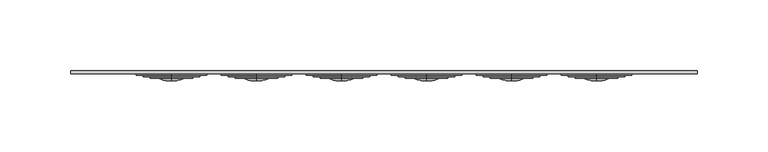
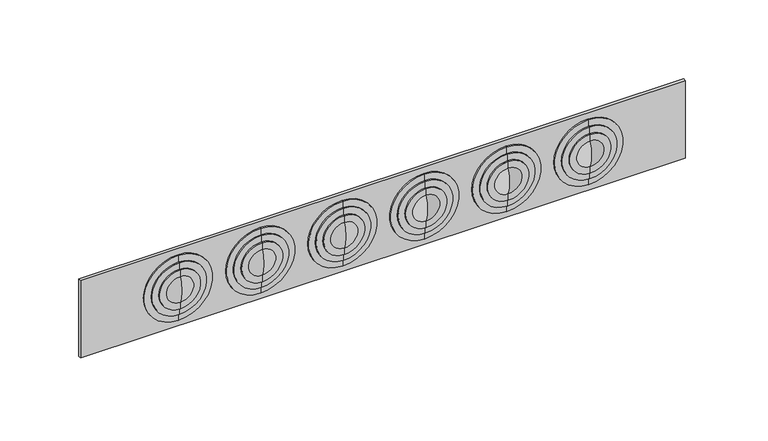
"""IFC4 building model written with IfcOpenShell, lengths in millimetres: proxy geometry, Комплект пластины для ввода труб в металлическую опалубку : Комплект пластины для ввода труб в металлическую опалубку."""

from ifc_helpers import new_model, si_unit, point, frame, origin, place, context, project, spatial, polyline, circle_curve, ellipse_curve, trimmed, outline, extrude, source, transform, mapped, element, save
from ifc_brep_helpers import plane_surface, cylinder_surface, revolved_surface, advanced_brep


def electrical_fixtures_34fc644d(model_context):
    return source(origin(), model_context, "Body", "SolidModel", [
        advanced_brep(
        [(-150.0, -2.0, 0.0), (-150.0, -2.0, -25.0), (-150.0, -2.0, 25.0), (-150.0, -5.067427, 9.8713258), (-150.0, -5.067427, -9.8713258), (-150.0, -7.0, 0.0), (-150.0, -5.067427, 15.0), (-150.0, -5.067427, -15.0), (-150.0, -4.054193, 15.0), (-150.0, -4.054193, -15.0), (-150.0, -4.054193, 20.0), (-150.0, -4.054193, -20.0), (-150.0, -3.040959, 20.0), (-150.0, -3.040959, -20.0), (-150.0, -3.040959, 25.0), (-150.0, -3.040959, -25.0)],
        [
            (0, 1),
            (1, 2, circle_curve(frame((-150.0, -2.0, 0.0), z_axis=(0.0, 1.0, 0.0), x_axis=(0.0, 0.0, -1.0)), 25.0)),
            (2, 0),
            (2, 1, circle_curve(frame((-150.0, -2.0, 0.0), z_axis=(0.0, 1.0, 0.0), x_axis=(0.0, 0.0, -1.0)), 25.0)),
            (3, 4, circle_curve(frame((-150.0, -5.067427, 0.0), z_axis=(0.0, -1.0, 0.0), x_axis=(0.0, 0.0, -1.0)), 9.8713258)),
            (4, 5, ellipse_curve(frame((-150.0, -2.0, 0.0), z_axis=(-1.0, 0.0, 0.0), x_axis=(0.0, 0.0, 1.0)), 12.5, 5.0)),
            (5, 3, ellipse_curve(frame((-150.0, -2.0, 0.0), z_axis=(-1.0, 0.0, 0.0), x_axis=(0.0, 0.0, -1.0)), 12.5, 5.0)),
            (4, 3, circle_curve(frame((-150.0, -5.067427, 0.0), z_axis=(0.0, -1.0, 0.0), x_axis=(0.0, 0.0, -1.0)), 9.8713258)),
            (6, 7, circle_curve(frame((-150.0, -5.067427, 0.0), z_axis=(0.0, -1.0, 0.0), x_axis=(0.0, 0.0, -1.0)), 15.0)),
            (7, 4),
            (3, 6),
            (7, 6, circle_curve(frame((-150.0, -5.067427, 0.0), z_axis=(0.0, -1.0, 0.0), x_axis=(0.0, 0.0, -1.0)), 15.0)),
            (8, 9, circle_curve(frame((-150.0, -4.054193, 0.0), z_axis=(0.0, -1.0, 0.0), x_axis=(0.0, 0.0, -1.0)), 15.0)),
            (9, 7),
            (6, 8),
            (9, 8, circle_curve(frame((-150.0, -4.054193, 0.0), z_axis=(0.0, -1.0, 0.0), x_axis=(0.0, 0.0, -1.0)), 15.0)),
            (10, 11, circle_curve(frame((-150.0, -4.054193, 0.0), z_axis=(0.0, -1.0, 0.0), x_axis=(0.0, 0.0, -1.0)), 20.0)),
            (11, 9),
            (8, 10),
            (11, 10, circle_curve(frame((-150.0, -4.054193, 0.0), z_axis=(0.0, -1.0, 0.0), x_axis=(0.0, 0.0, -1.0)), 20.0)),
            (12, 13, circle_curve(frame((-150.0, -3.040959, 0.0), z_axis=(0.0, -1.0, 0.0), x_axis=(0.0, 0.0, -1.0)), 20.0)),
            (13, 11),
            (10, 12),
            (13, 12, circle_curve(frame((-150.0, -3.040959, 0.0), z_axis=(0.0, -1.0, 0.0), x_axis=(0.0, 0.0, -1.0)), 20.0)),
            (14, 15, circle_curve(frame((-150.0, -3.040959, 0.0), z_axis=(0.0, -1.0, 0.0), x_axis=(0.0, 0.0, -1.0)), 25.0)),
            (15, 13),
            (12, 14),
            (15, 14, circle_curve(frame((-150.0, -3.040959, 0.0), z_axis=(0.0, -1.0, 0.0), x_axis=(0.0, 0.0, -1.0)), 25.0)),
            (1, 15),
            (14, 2),
        ],
        [
            plane_surface(frame((-150.0, -2.0, 0.0), z_axis=(0.0, 1.0, 0.0), x_axis=(0.0, 0.0, -1.0))),
            revolved_surface(trimmed(ellipse_curve(frame((-150.0, -2.0, 0.0), z_axis=(1.0, 0.0, 0.0), x_axis=(0.0, 1.0, 0.0)), 5.0, 12.5), [point((-150.0, -7.0, 0.0))], [point((-150.0, -5.067427, -9.8713258))], True, "CARTESIAN"), (-150.0, 4.394365, 0.0), (0.0, 1.0, 0.0)),
            plane_surface(frame((-150.0, -5.067427, 0.0), z_axis=(0.0, -1.0, 0.0), x_axis=(0.0, 0.0, -1.0))),
            cylinder_surface(frame((-150.0, 4.394365, 0.0), z_axis=(0.0, 1.0, 0.0), x_axis=(0.0, 0.0, -1.0)), 15.0),
            plane_surface(frame((-150.0, -4.054193, 0.0), z_axis=(0.0, -1.0, 0.0), x_axis=(0.0, 0.0, -1.0))),
            cylinder_surface(frame((-150.0, 4.394365, 0.0), z_axis=(0.0, 1.0, 0.0), x_axis=(0.0, 0.0, -1.0)), 20.0),
            plane_surface(frame((-150.0, -3.040959, 0.0), z_axis=(0.0, -1.0, 0.0), x_axis=(0.0, 0.0, -1.0))),
            cylinder_surface(frame((-150.0, 4.394365, 0.0), z_axis=(0.0, 1.0, 0.0), x_axis=(0.0, 0.0, -1.0)), 25.0),
        ],
        [
            (0, [[1, 2, 3]]),
            (0, [[-3, 4, -1]]),
            (1, [[5, 6, 7]]),
            (1, [[8, -7, -6]]),
            (2, [[9, 10, -5, 11]]),
            (2, [[12, -11, -8, -10]]),
            (3, [[13, 14, -9, 15]]),
            (3, [[16, -15, -12, -14]]),
            (4, [[17, 18, -13, 19]]),
            (4, [[20, -19, -16, -18]]),
            (5, [[21, 22, -17, 23]]),
            (5, [[24, -23, -20, -22]]),
            (6, [[25, 26, -21, 27]]),
            (6, [[28, -27, -24, -26]]),
            (7, [[-2, 29, -25, 30]]),
            (7, [[-4, -30, -28, -29]]),
        ],
    ),
        advanced_brep(
        [(-90.0, -2.0, 0.0), (-90.0, -2.0, -25.0), (-90.0, -2.0, 25.0), (-90.0, -5.067427, 9.8713258), (-90.0, -5.067427, -9.8713258), (-90.0, -7.0, 0.0), (-90.0, -5.067427, 15.0), (-90.0, -5.067427, -15.0), (-90.0, -4.054193, 15.0), (-90.0, -4.054193, -15.0), (-90.0, -4.054193, 20.0), (-90.0, -4.054193, -20.0), (-90.0, -3.040959, 20.0), (-90.0, -3.040959, -20.0), (-90.0, -3.040959, 25.0), (-90.0, -3.040959, -25.0)],
        [
            (0, 1),
            (1, 2, circle_curve(frame((-90.0, -2.0, 0.0), z_axis=(0.0, 1.0, 0.0), x_axis=(0.0, 0.0, -1.0)), 25.0)),
            (2, 0),
            (2, 1, circle_curve(frame((-90.0, -2.0, 0.0), z_axis=(0.0, 1.0, 0.0), x_axis=(0.0, 0.0, -1.0)), 25.0)),
            (3, 4, circle_curve(frame((-90.0, -5.067427, 0.0), z_axis=(0.0, -1.0, 0.0), x_axis=(0.0, 0.0, -1.0)), 9.8713258)),
            (4, 5, ellipse_curve(frame((-90.0, -2.0, 0.0), z_axis=(-1.0, 0.0, 0.0), x_axis=(0.0, 0.0, 1.0)), 12.5, 5.0)),
            (5, 3, ellipse_curve(frame((-90.0, -2.0, 0.0), z_axis=(-1.0, 0.0, 0.0), x_axis=(0.0, 0.0, -1.0)), 12.5, 5.0)),
            (4, 3, circle_curve(frame((-90.0, -5.067427, 0.0), z_axis=(0.0, -1.0, 0.0), x_axis=(0.0, 0.0, -1.0)), 9.8713258)),
            (6, 7, circle_curve(frame((-90.0, -5.067427, 0.0), z_axis=(0.0, -1.0, 0.0), x_axis=(0.0, 0.0, -1.0)), 15.0)),
            (7, 4),
            (3, 6),
            (7, 6, circle_curve(frame((-90.0, -5.067427, 0.0), z_axis=(0.0, -1.0, 0.0), x_axis=(0.0, 0.0, -1.0)), 15.0)),
            (8, 9, circle_curve(frame((-90.0, -4.054193, 0.0), z_axis=(0.0, -1.0, 0.0), x_axis=(0.0, 0.0, -1.0)), 15.0)),
            (9, 7),
            (6, 8),
            (9, 8, circle_curve(frame((-90.0, -4.054193, 0.0), z_axis=(0.0, -1.0, 0.0), x_axis=(0.0, 0.0, -1.0)), 15.0)),
            (10, 11, circle_curve(frame((-90.0, -4.054193, 0.0), z_axis=(0.0, -1.0, 0.0), x_axis=(0.0, 0.0, -1.0)), 20.0)),
            (11, 9),
            (8, 10),
            (11, 10, circle_curve(frame((-90.0, -4.054193, 0.0), z_axis=(0.0, -1.0, 0.0), x_axis=(0.0, 0.0, -1.0)), 20.0)),
            (12, 13, circle_curve(frame((-90.0, -3.040959, 0.0), z_axis=(0.0, -1.0, 0.0), x_axis=(0.0, 0.0, -1.0)), 20.0)),
            (13, 11),
            (10, 12),
            (13, 12, circle_curve(frame((-90.0, -3.040959, 0.0), z_axis=(0.0, -1.0, 0.0), x_axis=(0.0, 0.0, -1.0)), 20.0)),
            (14, 15, circle_curve(frame((-90.0, -3.040959, 0.0), z_axis=(0.0, -1.0, 0.0), x_axis=(0.0, 0.0, -1.0)), 25.0)),
            (15, 13),
            (12, 14),
            (15, 14, circle_curve(frame((-90.0, -3.040959, 0.0), z_axis=(0.0, -1.0, 0.0), x_axis=(0.0, 0.0, -1.0)), 25.0)),
            (1, 15),
            (14, 2),
        ],
        [
            plane_surface(frame((-90.0, -2.0, 0.0), z_axis=(0.0, 1.0, 0.0), x_axis=(0.0, 0.0, -1.0))),
            revolved_surface(trimmed(ellipse_curve(frame((-90.0, -2.0, 0.0), z_axis=(1.0, 0.0, 0.0), x_axis=(0.0, 1.0, 0.0)), 5.0, 12.5), [point((-90.0, -7.0, 0.0))], [point((-90.0, -5.067427, -9.8713258))], True, "CARTESIAN"), (-90.0, 4.394365, 0.0), (0.0, 1.0, 0.0)),
            plane_surface(frame((-90.0, -5.067427, 0.0), z_axis=(0.0, -1.0, 0.0), x_axis=(0.0, 0.0, -1.0))),
            cylinder_surface(frame((-90.0, 4.394365, 0.0), z_axis=(0.0, 1.0, 0.0), x_axis=(0.0, 0.0, -1.0)), 15.0),
            plane_surface(frame((-90.0, -4.054193, 0.0), z_axis=(0.0, -1.0, 0.0), x_axis=(0.0, 0.0, -1.0))),
            cylinder_surface(frame((-90.0, 4.394365, 0.0), z_axis=(0.0, 1.0, 0.0), x_axis=(0.0, 0.0, -1.0)), 20.0),
            plane_surface(frame((-90.0, -3.040959, 0.0), z_axis=(0.0, -1.0, 0.0), x_axis=(0.0, 0.0, -1.0))),
            cylinder_surface(frame((-90.0, 4.394365, 0.0), z_axis=(0.0, 1.0, 0.0), x_axis=(0.0, 0.0, -1.0)), 25.0),
        ],
        [
            (0, [[1, 2, 3]]),
            (0, [[-3, 4, -1]]),
            (1, [[5, 6, 7]]),
            (1, [[8, -7, -6]]),
            (2, [[9, 10, -5, 11]]),
            (2, [[12, -11, -8, -10]]),
            (3, [[13, 14, -9, 15]]),
            (3, [[16, -15, -12, -14]]),
            (4, [[17, 18, -13, 19]]),
            (4, [[20, -19, -16, -18]]),
            (5, [[21, 22, -17, 23]]),
            (5, [[24, -23, -20, -22]]),
            (6, [[25, 26, -21, 27]]),
            (6, [[28, -27, -24, -26]]),
            (7, [[-2, 29, -25, 30]]),
            (7, [[-4, -30, -28, -29]]),
        ],
    ),
        advanced_brep(
        [(150.0, -2.0, 25.0), (150.0, -2.0, -25.0), (150.0, -2.0, 0.0), (150.0, -7.0, 0.0), (150.0, -5.067427, -9.8713258), (150.0, -5.067427, 9.8713258), (150.0, -5.067427, -15.0), (150.0, -5.067427, 15.0), (150.0, -4.054193, -15.0), (150.0, -4.054193, 15.0), (150.0, -4.054193, -20.0), (150.0, -4.054193, 20.0), (150.0, -3.040959, -20.0), (150.0, -3.040959, 20.0), (150.0, -3.040959, -25.0), (150.0, -3.040959, 25.0)],
        [
            (0, 1, circle_curve(frame((150.0, -2.0, 0.0), z_axis=(0.0, 1.0, 0.0), x_axis=(0.0, 0.0, -1.0)), 25.0)),
            (1, 2),
            (2, 0),
            (1, 0, circle_curve(frame((150.0, -2.0, 0.0), z_axis=(0.0, 1.0, 0.0), x_axis=(0.0, 0.0, -1.0)), 25.0)),
            (3, 4, ellipse_curve(frame((150.0, -2.0, 0.0), z_axis=(1.0, 0.0, 0.0), x_axis=(0.0, 0.0, -1.0)), 12.5, 5.0)),
            (4, 5, circle_curve(frame((150.0, -5.067427, 0.0), z_axis=(0.0, -1.0, 0.0), x_axis=(0.0, 0.0, -1.0)), 9.8713258)),
            (5, 3, ellipse_curve(frame((150.0, -2.0, 0.0), z_axis=(1.0, 0.0, 0.0), x_axis=(0.0, 0.0, 1.0)), 12.5, 5.0)),
            (5, 4, circle_curve(frame((150.0, -5.067427, 0.0), z_axis=(0.0, -1.0, 0.0), x_axis=(0.0, 0.0, -1.0)), 9.8713258)),
            (4, 6),
            (6, 7, circle_curve(frame((150.0, -5.067427, 0.0), z_axis=(0.0, -1.0, 0.0), x_axis=(0.0, 0.0, -1.0)), 15.0)),
            (7, 5),
            (7, 6, circle_curve(frame((150.0, -5.067427, 0.0), z_axis=(0.0, -1.0, 0.0), x_axis=(0.0, 0.0, -1.0)), 15.0)),
            (6, 8),
            (8, 9, circle_curve(frame((150.0, -4.054193, 0.0), z_axis=(0.0, -1.0, 0.0), x_axis=(0.0, 0.0, -1.0)), 15.0)),
            (9, 7),
            (9, 8, circle_curve(frame((150.0, -4.054193, 0.0), z_axis=(0.0, -1.0, 0.0), x_axis=(0.0, 0.0, -1.0)), 15.0)),
            (8, 10),
            (10, 11, circle_curve(frame((150.0, -4.054193, 0.0), z_axis=(0.0, -1.0, 0.0), x_axis=(0.0, 0.0, -1.0)), 20.0)),
            (11, 9),
            (11, 10, circle_curve(frame((150.0, -4.054193, 0.0), z_axis=(0.0, -1.0, 0.0), x_axis=(0.0, 0.0, -1.0)), 20.0)),
            (10, 12),
            (12, 13, circle_curve(frame((150.0, -3.040959, 0.0), z_axis=(0.0, -1.0, 0.0), x_axis=(0.0, 0.0, -1.0)), 20.0)),
            (13, 11),
            (13, 12, circle_curve(frame((150.0, -3.040959, 0.0), z_axis=(0.0, -1.0, 0.0), x_axis=(0.0, 0.0, -1.0)), 20.0)),
            (12, 14),
            (14, 15, circle_curve(frame((150.0, -3.040959, 0.0), z_axis=(0.0, -1.0, 0.0), x_axis=(0.0, 0.0, -1.0)), 25.0)),
            (15, 13),
            (15, 14, circle_curve(frame((150.0, -3.040959, 0.0), z_axis=(0.0, -1.0, 0.0), x_axis=(0.0, 0.0, -1.0)), 25.0)),
            (14, 1),
            (0, 15),
        ],
        [
            plane_surface(frame((150.0, -2.0, 0.0), z_axis=(0.0, 1.0, 0.0), x_axis=(0.0, 0.0, -1.0))),
            revolved_surface(trimmed(ellipse_curve(frame((150.0, -2.0, 0.0), z_axis=(-1.0, 0.0, 0.0), x_axis=(0.0, 1.0, 0.0)), 5.0, 12.5), [point((150.0, -5.067427, -9.8713258))], [point((150.0, -7.0, 0.0))], True, "CARTESIAN"), (150.0, 4.394365, 0.0), (0.0, -1.0, 0.0)),
            plane_surface(frame((150.0, -5.067427, 0.0), z_axis=(0.0, -1.0, 0.0), x_axis=(0.0, 0.0, -1.0))),
            cylinder_surface(frame((150.0, 4.394365, 0.0), z_axis=(0.0, -1.0, 0.0), x_axis=(0.0, 0.0, -1.0)), 15.0),
            plane_surface(frame((150.0, -4.054193, 0.0), z_axis=(0.0, -1.0, 0.0), x_axis=(0.0, 0.0, -1.0))),
            cylinder_surface(frame((150.0, 4.394365, 0.0), z_axis=(0.0, -1.0, 0.0), x_axis=(0.0, 0.0, -1.0)), 20.0),
            plane_surface(frame((150.0, -3.040959, 0.0), z_axis=(0.0, -1.0, 0.0), x_axis=(0.0, 0.0, -1.0))),
            cylinder_surface(frame((150.0, 4.394365, 0.0), z_axis=(0.0, -1.0, 0.0), x_axis=(0.0, 0.0, -1.0)), 25.0),
        ],
        [
            (0, [[1, 2, 3]]),
            (0, [[4, -3, -2]]),
            (1, [[5, 6, 7]]),
            (1, [[-7, 8, -5]]),
            (2, [[-6, 9, 10, 11]]),
            (2, [[-8, -11, 12, -9]]),
            (3, [[-10, 13, 14, 15]]),
            (3, [[-12, -15, 16, -13]]),
            (4, [[-14, 17, 18, 19]]),
            (4, [[-16, -19, 20, -17]]),
            (5, [[-18, 21, 22, 23]]),
            (5, [[-20, -23, 24, -21]]),
            (6, [[-22, 25, 26, 27]]),
            (6, [[-24, -27, 28, -25]]),
            (7, [[-26, 29, -1, 30]]),
            (7, [[-28, -30, -4, -29]]),
        ],
    ),
        advanced_brep(
        [(90.0, -2.0, 25.0), (90.0, -2.0, -25.0), (90.0, -2.0, 0.0), (90.0, -7.0, 0.0), (90.0, -5.067427, -9.8713258), (90.0, -5.067427, 9.8713258), (90.0, -5.067427, -15.0), (90.0, -5.067427, 15.0), (90.0, -4.054193, -15.0), (90.0, -4.054193, 15.0), (90.0, -4.054193, -20.0), (90.0, -4.054193, 20.0), (90.0, -3.040959, -20.0), (90.0, -3.040959, 20.0), (90.0, -3.040959, -25.0), (90.0, -3.040959, 25.0)],
        [
            (0, 1, circle_curve(frame((90.0, -2.0, 0.0), z_axis=(0.0, 1.0, 0.0), x_axis=(0.0, 0.0, -1.0)), 25.0)),
            (1, 2),
            (2, 0),
            (1, 0, circle_curve(frame((90.0, -2.0, 0.0), z_axis=(0.0, 1.0, 0.0), x_axis=(0.0, 0.0, -1.0)), 25.0)),
            (3, 4, ellipse_curve(frame((90.0, -2.0, 0.0), z_axis=(1.0, 0.0, 0.0), x_axis=(0.0, 0.0, -1.0)), 12.5, 5.0)),
            (4, 5, circle_curve(frame((90.0, -5.067427, 0.0), z_axis=(0.0, -1.0, 0.0), x_axis=(0.0, 0.0, -1.0)), 9.8713258)),
            (5, 3, ellipse_curve(frame((90.0, -2.0, 0.0), z_axis=(1.0, 0.0, 0.0), x_axis=(0.0, 0.0, 1.0)), 12.5, 5.0)),
            (5, 4, circle_curve(frame((90.0, -5.067427, 0.0), z_axis=(0.0, -1.0, 0.0), x_axis=(0.0, 0.0, -1.0)), 9.8713258)),
            (4, 6),
            (6, 7, circle_curve(frame((90.0, -5.067427, 0.0), z_axis=(0.0, -1.0, 0.0), x_axis=(0.0, 0.0, -1.0)), 15.0)),
            (7, 5),
            (7, 6, circle_curve(frame((90.0, -5.067427, 0.0), z_axis=(0.0, -1.0, 0.0), x_axis=(0.0, 0.0, -1.0)), 15.0)),
            (6, 8),
            (8, 9, circle_curve(frame((90.0, -4.054193, 0.0), z_axis=(0.0, -1.0, 0.0), x_axis=(0.0, 0.0, -1.0)), 15.0)),
            (9, 7),
            (9, 8, circle_curve(frame((90.0, -4.054193, 0.0), z_axis=(0.0, -1.0, 0.0), x_axis=(0.0, 0.0, -1.0)), 15.0)),
            (8, 10),
            (10, 11, circle_curve(frame((90.0, -4.054193, 0.0), z_axis=(0.0, -1.0, 0.0), x_axis=(0.0, 0.0, -1.0)), 20.0)),
            (11, 9),
            (11, 10, circle_curve(frame((90.0, -4.054193, 0.0), z_axis=(0.0, -1.0, 0.0), x_axis=(0.0, 0.0, -1.0)), 20.0)),
            (10, 12),
            (12, 13, circle_curve(frame((90.0, -3.040959, 0.0), z_axis=(0.0, -1.0, 0.0), x_axis=(0.0, 0.0, -1.0)), 20.0)),
            (13, 11),
            (13, 12, circle_curve(frame((90.0, -3.040959, 0.0), z_axis=(0.0, -1.0, 0.0), x_axis=(0.0, 0.0, -1.0)), 20.0)),
            (12, 14),
            (14, 15, circle_curve(frame((90.0, -3.040959, 0.0), z_axis=(0.0, -1.0, 0.0), x_axis=(0.0, 0.0, -1.0)), 25.0)),
            (15, 13),
            (15, 14, circle_curve(frame((90.0, -3.040959, 0.0), z_axis=(0.0, -1.0, 0.0), x_axis=(0.0, 0.0, -1.0)), 25.0)),
            (14, 1),
            (0, 15),
        ],
        [
            plane_surface(frame((90.0, -2.0, 0.0), z_axis=(0.0, 1.0, 0.0), x_axis=(0.0, 0.0, -1.0))),
            revolved_surface(trimmed(ellipse_curve(frame((90.0, -2.0, 0.0), z_axis=(-1.0, 0.0, 0.0), x_axis=(0.0, 1.0, 0.0)), 5.0, 12.5), [point((90.0, -5.067427, -9.8713258))], [point((90.0, -7.0, 0.0))], True, "CARTESIAN"), (90.0, 4.394365, 0.0), (0.0, -1.0, 0.0)),
            plane_surface(frame((90.0, -5.067427, 0.0), z_axis=(0.0, -1.0, 0.0), x_axis=(0.0, 0.0, -1.0))),
            cylinder_surface(frame((90.0, 4.394365, 0.0), z_axis=(0.0, -1.0, 0.0), x_axis=(0.0, 0.0, -1.0)), 15.0),
            plane_surface(frame((90.0, -4.054193, 0.0), z_axis=(0.0, -1.0, 0.0), x_axis=(0.0, 0.0, -1.0))),
            cylinder_surface(frame((90.0, 4.394365, 0.0), z_axis=(0.0, -1.0, 0.0), x_axis=(0.0, 0.0, -1.0)), 20.0),
            plane_surface(frame((90.0, -3.040959, 0.0), z_axis=(0.0, -1.0, 0.0), x_axis=(0.0, 0.0, -1.0))),
            cylinder_surface(frame((90.0, 4.394365, 0.0), z_axis=(0.0, -1.0, 0.0), x_axis=(0.0, 0.0, -1.0)), 25.0),
        ],
        [
            (0, [[1, 2, 3]]),
            (0, [[4, -3, -2]]),
            (1, [[5, 6, 7]]),
            (1, [[-7, 8, -5]]),
            (2, [[-6, 9, 10, 11]]),
            (2, [[-8, -11, 12, -9]]),
            (3, [[-10, 13, 14, 15]]),
            (3, [[-12, -15, 16, -13]]),
            (4, [[-14, 17, 18, 19]]),
            (4, [[-16, -19, 20, -17]]),
            (5, [[-18, 21, 22, 23]]),
            (5, [[-20, -23, 24, -21]]),
            (6, [[-22, 25, 26, 27]]),
            (6, [[-24, -27, 28, -25]]),
            (7, [[-26, 29, -1, 30]]),
            (7, [[-28, -30, -4, -29]]),
        ],
    ),
        advanced_brep(
        [(30.0, -2.0, 25.0), (30.0, -2.0, -25.0), (30.0, -2.0, 0.0), (30.0, -7.0, 0.0), (30.0, -5.067427, -9.8713258), (30.0, -5.067427, 9.8713258), (30.0, -5.067427, -15.0), (30.0, -5.067427, 15.0), (30.0, -4.054193, -15.0), (30.0, -4.054193, 15.0), (30.0, -4.054193, -20.0), (30.0, -4.054193, 20.0), (30.0, -3.040959, -20.0), (30.0, -3.040959, 20.0), (30.0, -3.040959, -25.0), (30.0, -3.040959, 25.0)],
        [
            (0, 1, circle_curve(frame((30.0, -2.0, 0.0), z_axis=(0.0, 1.0, 0.0), x_axis=(0.0, 0.0, -1.0)), 25.0)),
            (1, 2),
            (2, 0),
            (1, 0, circle_curve(frame((30.0, -2.0, 0.0), z_axis=(0.0, 1.0, 0.0), x_axis=(0.0, 0.0, -1.0)), 25.0)),
            (3, 4, ellipse_curve(frame((30.0, -2.0, 0.0), z_axis=(1.0, 0.0, 0.0), x_axis=(0.0, 0.0, -1.0)), 12.5, 5.0)),
            (4, 5, circle_curve(frame((30.0, -5.067427, 0.0), z_axis=(0.0, -1.0, 0.0), x_axis=(0.0, 0.0, -1.0)), 9.8713258)),
            (5, 3, ellipse_curve(frame((30.0, -2.0, 0.0), z_axis=(1.0, 0.0, 0.0), x_axis=(0.0, 0.0, 1.0)), 12.5, 5.0)),
            (5, 4, circle_curve(frame((30.0, -5.067427, 0.0), z_axis=(0.0, -1.0, 0.0), x_axis=(0.0, 0.0, -1.0)), 9.8713258)),
            (4, 6),
            (6, 7, circle_curve(frame((30.0, -5.067427, 0.0), z_axis=(0.0, -1.0, 0.0), x_axis=(0.0, 0.0, -1.0)), 15.0)),
            (7, 5),
            (7, 6, circle_curve(frame((30.0, -5.067427, 0.0), z_axis=(0.0, -1.0, 0.0), x_axis=(0.0, 0.0, -1.0)), 15.0)),
            (6, 8),
            (8, 9, circle_curve(frame((30.0, -4.054193, 0.0), z_axis=(0.0, -1.0, 0.0), x_axis=(0.0, 0.0, -1.0)), 15.0)),
            (9, 7),
            (9, 8, circle_curve(frame((30.0, -4.054193, 0.0), z_axis=(0.0, -1.0, 0.0), x_axis=(0.0, 0.0, -1.0)), 15.0)),
            (8, 10),
            (10, 11, circle_curve(frame((30.0, -4.054193, 0.0), z_axis=(0.0, -1.0, 0.0), x_axis=(0.0, 0.0, -1.0)), 20.0)),
            (11, 9),
            (11, 10, circle_curve(frame((30.0, -4.054193, 0.0), z_axis=(0.0, -1.0, 0.0), x_axis=(0.0, 0.0, -1.0)), 20.0)),
            (10, 12),
            (12, 13, circle_curve(frame((30.0, -3.040959, 0.0), z_axis=(0.0, -1.0, 0.0), x_axis=(0.0, 0.0, -1.0)), 20.0)),
            (13, 11),
            (13, 12, circle_curve(frame((30.0, -3.040959, 0.0), z_axis=(0.0, -1.0, 0.0), x_axis=(0.0, 0.0, -1.0)), 20.0)),
            (12, 14),
            (14, 15, circle_curve(frame((30.0, -3.040959, 0.0), z_axis=(0.0, -1.0, 0.0), x_axis=(0.0, 0.0, -1.0)), 25.0)),
            (15, 13),
            (15, 14, circle_curve(frame((30.0, -3.040959, 0.0), z_axis=(0.0, -1.0, 0.0), x_axis=(0.0, 0.0, -1.0)), 25.0)),
            (14, 1),
            (0, 15),
        ],
        [
            plane_surface(frame((30.0, -2.0, 0.0), z_axis=(0.0, 1.0, 0.0), x_axis=(0.0, 0.0, -1.0))),
            revolved_surface(trimmed(ellipse_curve(frame((30.0, -2.0, 0.0), z_axis=(-1.0, 0.0, 0.0), x_axis=(0.0, 1.0, 0.0)), 5.0, 12.5), [point((30.0, -5.067427, -9.8713258))], [point((30.0, -7.0, 0.0))], True, "CARTESIAN"), (30.0, 4.394365, 0.0), (0.0, -1.0, 0.0)),
            plane_surface(frame((30.0, -5.067427, 0.0), z_axis=(0.0, -1.0, 0.0), x_axis=(0.0, 0.0, -1.0))),
            cylinder_surface(frame((30.0, 4.394365, 0.0), z_axis=(0.0, -1.0, 0.0), x_axis=(0.0, 0.0, -1.0)), 15.0),
            plane_surface(frame((30.0, -4.054193, 0.0), z_axis=(0.0, -1.0, 0.0), x_axis=(0.0, 0.0, -1.0))),
            cylinder_surface(frame((30.0, 4.394365, 0.0), z_axis=(0.0, -1.0, 0.0), x_axis=(0.0, 0.0, -1.0)), 20.0),
            plane_surface(frame((30.0, -3.040959, 0.0), z_axis=(0.0, -1.0, 0.0), x_axis=(0.0, 0.0, -1.0))),
            cylinder_surface(frame((30.0, 4.394365, 0.0), z_axis=(0.0, -1.0, 0.0), x_axis=(0.0, 0.0, -1.0)), 25.0),
        ],
        [
            (0, [[1, 2, 3]]),
            (0, [[4, -3, -2]]),
            (1, [[5, 6, 7]]),
            (1, [[-7, 8, -5]]),
            (2, [[-6, 9, 10, 11]]),
            (2, [[-8, -11, 12, -9]]),
            (3, [[-10, 13, 14, 15]]),
            (3, [[-12, -15, 16, -13]]),
            (4, [[-14, 17, 18, 19]]),
            (4, [[-16, -19, 20, -17]]),
            (5, [[-18, 21, 22, 23]]),
            (5, [[-20, -23, 24, -21]]),
            (6, [[-22, 25, 26, 27]]),
            (6, [[-24, -27, 28, -25]]),
            (7, [[-26, 29, -1, 30]]),
            (7, [[-28, -30, -4, -29]]),
        ],
    ),
        advanced_brep(
        [(-30.0, -2.0, 0.0), (-30.0, -2.0, -25.0), (-30.0, -2.0, 25.0), (-30.0, -5.067427, 9.8713258), (-30.0, -5.067427, -9.8713258), (-30.0, -7.0, 0.0), (-30.0, -5.067427, 15.0), (-30.0, -5.067427, -15.0), (-30.0, -4.054193, 15.0), (-30.0, -4.054193, -15.0), (-30.0, -4.054193, 20.0), (-30.0, -4.054193, -20.0), (-30.0, -3.040959, 20.0), (-30.0, -3.040959, -20.0), (-30.0, -3.040959, 25.0), (-30.0, -3.040959, -25.0)],
        [
            (0, 1),
            (1, 2, circle_curve(frame((-30.0, -2.0, 0.0), z_axis=(0.0, 1.0, 0.0), x_axis=(0.0, 0.0, -1.0)), 25.0)),
            (2, 0),
            (2, 1, circle_curve(frame((-30.0, -2.0, 0.0), z_axis=(0.0, 1.0, 0.0), x_axis=(0.0, 0.0, -1.0)), 25.0)),
            (3, 4, circle_curve(frame((-30.0, -5.067427, 0.0), z_axis=(0.0, -1.0, 0.0), x_axis=(0.0, 0.0, -1.0)), 9.8713258)),
            (4, 5, ellipse_curve(frame((-30.0, -2.0, 0.0), z_axis=(-1.0, 0.0, 0.0), x_axis=(0.0, 0.0, 1.0)), 12.5, 5.0)),
            (5, 3, ellipse_curve(frame((-30.0, -2.0, 0.0), z_axis=(-1.0, 0.0, 0.0), x_axis=(0.0, 0.0, -1.0)), 12.5, 5.0)),
            (4, 3, circle_curve(frame((-30.0, -5.067427, 0.0), z_axis=(0.0, -1.0, 0.0), x_axis=(0.0, 0.0, -1.0)), 9.8713258)),
            (6, 7, circle_curve(frame((-30.0, -5.067427, 0.0), z_axis=(0.0, -1.0, 0.0), x_axis=(0.0, 0.0, -1.0)), 15.0)),
            (7, 4),
            (3, 6),
            (7, 6, circle_curve(frame((-30.0, -5.067427, 0.0), z_axis=(0.0, -1.0, 0.0), x_axis=(0.0, 0.0, -1.0)), 15.0)),
            (8, 9, circle_curve(frame((-30.0, -4.054193, 0.0), z_axis=(0.0, -1.0, 0.0), x_axis=(0.0, 0.0, -1.0)), 15.0)),
            (9, 7),
            (6, 8),
            (9, 8, circle_curve(frame((-30.0, -4.054193, 0.0), z_axis=(0.0, -1.0, 0.0), x_axis=(0.0, 0.0, -1.0)), 15.0)),
            (10, 11, circle_curve(frame((-30.0, -4.054193, 0.0), z_axis=(0.0, -1.0, 0.0), x_axis=(0.0, 0.0, -1.0)), 20.0)),
            (11, 9),
            (8, 10),
            (11, 10, circle_curve(frame((-30.0, -4.054193, 0.0), z_axis=(0.0, -1.0, 0.0), x_axis=(0.0, 0.0, -1.0)), 20.0)),
            (12, 13, circle_curve(frame((-30.0, -3.040959, 0.0), z_axis=(0.0, -1.0, 0.0), x_axis=(0.0, 0.0, -1.0)), 20.0)),
            (13, 11),
            (10, 12),
            (13, 12, circle_curve(frame((-30.0, -3.040959, 0.0), z_axis=(0.0, -1.0, 0.0), x_axis=(0.0, 0.0, -1.0)), 20.0)),
            (14, 15, circle_curve(frame((-30.0, -3.040959, 0.0), z_axis=(0.0, -1.0, 0.0), x_axis=(0.0, 0.0, -1.0)), 25.0)),
            (15, 13),
            (12, 14),
            (15, 14, circle_curve(frame((-30.0, -3.040959, 0.0), z_axis=(0.0, -1.0, 0.0), x_axis=(0.0, 0.0, -1.0)), 25.0)),
            (1, 15),
            (14, 2),
        ],
        [
            plane_surface(frame((-30.0, -2.0, 0.0), z_axis=(0.0, 1.0, 0.0), x_axis=(0.0, 0.0, -1.0))),
            revolved_surface(trimmed(ellipse_curve(frame((-30.0, -2.0, 0.0), z_axis=(1.0, 0.0, 0.0), x_axis=(0.0, 1.0, 0.0)), 5.0, 12.5), [point((-30.0, -7.0, 0.0))], [point((-30.0, -5.067427, -9.8713258))], True, "CARTESIAN"), (-30.0, 4.394365, 0.0), (0.0, 1.0, 0.0)),
            plane_surface(frame((-30.0, -5.067427, 0.0), z_axis=(0.0, -1.0, 0.0), x_axis=(0.0, 0.0, -1.0))),
            cylinder_surface(frame((-30.0, 4.394365, 0.0), z_axis=(0.0, 1.0, 0.0), x_axis=(0.0, 0.0, -1.0)), 15.0),
            plane_surface(frame((-30.0, -4.054193, 0.0), z_axis=(0.0, -1.0, 0.0), x_axis=(0.0, 0.0, -1.0))),
            cylinder_surface(frame((-30.0, 4.394365, 0.0), z_axis=(0.0, 1.0, 0.0), x_axis=(0.0, 0.0, -1.0)), 20.0),
            plane_surface(frame((-30.0, -3.040959, 0.0), z_axis=(0.0, -1.0, 0.0), x_axis=(0.0, 0.0, -1.0))),
            cylinder_surface(frame((-30.0, 4.394365, 0.0), z_axis=(0.0, 1.0, 0.0), x_axis=(0.0, 0.0, -1.0)), 25.0),
        ],
        [
            (0, [[1, 2, 3]]),
            (0, [[-3, 4, -1]]),
            (1, [[5, 6, 7]]),
            (1, [[8, -7, -6]]),
            (2, [[9, 10, -5, 11]]),
            (2, [[12, -11, -8, -10]]),
            (3, [[13, 14, -9, 15]]),
            (3, [[16, -15, -12, -14]]),
            (4, [[17, 18, -13, 19]]),
            (4, [[20, -19, -16, -18]]),
            (5, [[21, 22, -17, 23]]),
            (5, [[24, -23, -20, -22]]),
            (6, [[25, 26, -21, 27]]),
            (6, [[28, -27, -24, -26]]),
            (7, [[-2, 29, -25, 30]]),
            (7, [[-4, -30, -28, -29]]),
        ],
    ),
        extrude(outline(polyline([(221.0, 0.0), (221.0, -2.0), (-221.0, -2.0), (-221.0, 0.0), (221.0, 0.0)])), frame((0.0, 0.0, -30.0), z_axis=(0.0, 0.0, 1.0), x_axis=(1.0, 0.0, 0.0)), (0.0, 0.0, 1.0), 60.0),
    ])


if __name__ == "__main__":
    model = new_model("IFC4")
    model_context = context("Model", 3, world=origin())
    ifc_project = project(units=[si_unit("LENGTHUNIT", "METRE", prefix="MILLI")], contexts=[model_context])
    site = spatial("IfcSite", under=ifc_project)
    building = spatial("IfcBuilding", under=site)
    placement = place(None, origin())
    electrical_fixtures_shape = electrical_fixtures_34fc644d(model_context)
    element("IfcBuildingElementProxy", 1, Name="Комплект пластины для ввода труб в металлическую опалубку : Комплект пластины для ввода труб в металлическую опалубку", ObjectType="Комплект пластины для ввода труб в металлическую опалубку : Комплект пластины для ввода труб в металлическую опалубку", at=placement, inside=building, context=model_context, shape_type="MappedRepresentation", body=[
        mapped(electrical_fixtures_shape, transform((0.0, 0.0, 0.0), x_axis=(1.0, 0.0, 0.0), y_axis=(0.0, 1.0, 0.0), z_axis=(0.0, 0.0, 1.0))),
    ])
    save(model, "model.ifc")
